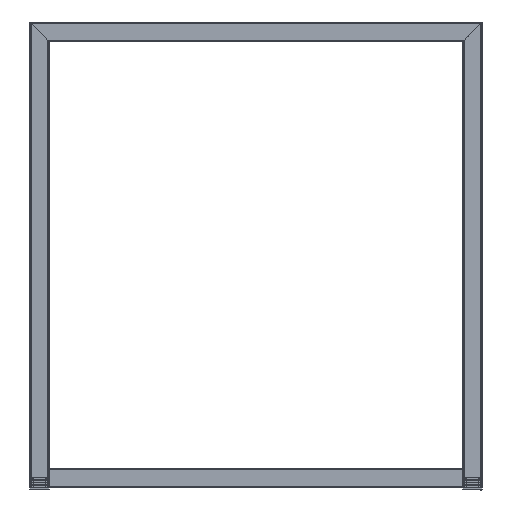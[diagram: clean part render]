
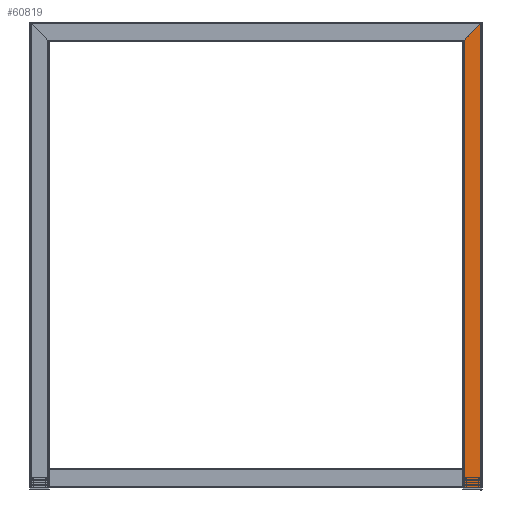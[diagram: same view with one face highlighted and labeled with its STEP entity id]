
A CAD part, left-side view. The second image highlights one B-rep face of the part: STEP entity #60819.
In plain terms, the highlighted planar face has unit normal (-1, 0, 0).
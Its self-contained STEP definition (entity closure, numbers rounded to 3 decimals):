
#2407=FACE_OUTER_BOUND('',#5893,.T.);
#5893=EDGE_LOOP('',(#46707,#46708,#46709,#46710));
#10437=LINE('',#86926,#18430);
#12940=LINE('',#91872,#20933);
#13120=LINE('',#92207,#21113);
#13128=LINE('',#92223,#21121);
#18430=VECTOR('',#70975,10.);
#20933=VECTOR('',#75580,10.);
#21113=VECTOR('',#75968,10.);
#21121=VECTOR('',#75992,10.);
#25303=VERTEX_POINT('',#86905);
#25312=VERTEX_POINT('',#86925);
#26692=VERTEX_POINT('',#91839);
#26700=VERTEX_POINT('',#91871);
#30948=EDGE_CURVE('',#25303,#25312,#10437,.T.);
#33452=EDGE_CURVE('',#26700,#26692,#12940,.T.);
#33632=EDGE_CURVE('',#25312,#26700,#13120,.T.);
#33640=EDGE_CURVE('',#25303,#26692,#13128,.T.);
#46707=ORIENTED_EDGE('',*,*,#33452,.T.);
#46708=ORIENTED_EDGE('',*,*,#33640,.F.);
#46709=ORIENTED_EDGE('',*,*,#30948,.T.);
#46710=ORIENTED_EDGE('',*,*,#33632,.T.);
#54053=PLANE('',#64248);
#60819=ADVANCED_FACE('',(#2407),#54053,.T.);
#64248=AXIS2_PLACEMENT_3D('',#92222,#75990,#75991);
#70975=DIRECTION('',(0.,-1.,0.));
#75580=DIRECTION('',(0.,0.707,-0.707));
#75968=DIRECTION('',(0.,0.,1.));
#75990=DIRECTION('center_axis',(-1.,0.,0.));
#75991=DIRECTION('ref_axis',(0.,0.,1.));
#75992=DIRECTION('',(0.,0.,1.));
#86905=CARTESIAN_POINT('',(-715.,-322.,4.));
#86925=CARTESIAN_POINT('',(-715.,-348.,4.));
#86926=CARTESIAN_POINT('',(-715.,-322.,4.));
#91839=CARTESIAN_POINT('',(-715.,-322.,696.));
#91871=CARTESIAN_POINT('',(-715.,-348.,722.));
#91872=CARTESIAN_POINT('',(-715.,-348.,722.));
#92207=CARTESIAN_POINT('',(-715.,-348.,4.));
#92222=CARTESIAN_POINT('Origin',(-715.,-335.23,359.192));
#92223=CARTESIAN_POINT('',(-715.,-322.,4.));
